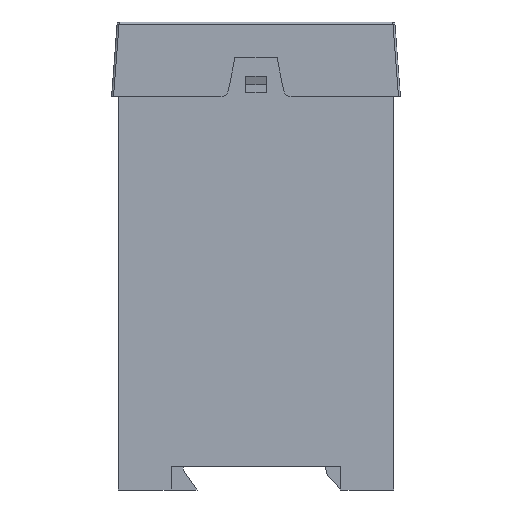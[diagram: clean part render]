
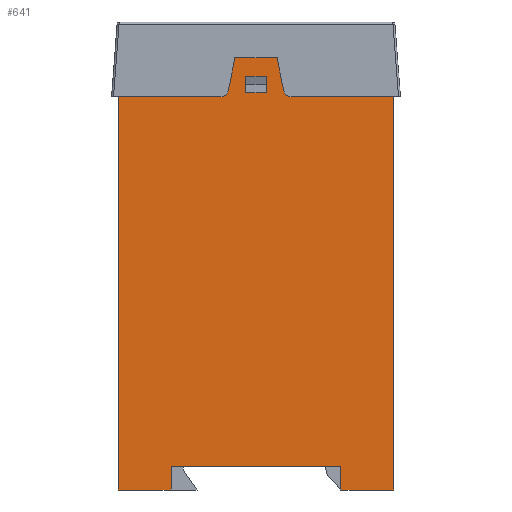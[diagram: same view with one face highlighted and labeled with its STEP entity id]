
A CAD part, left-side view. The second image highlights one B-rep face of the part: STEP entity #641.
In plain terms, the highlighted planar face has unit normal (-1, 0, 0).
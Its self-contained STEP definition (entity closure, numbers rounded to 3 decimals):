
#33 = VECTOR ( 'NONE', #10605, 1000. ) ;
#114 = EDGE_CURVE ( 'NONE', #5774, #7812, #5822, .T. ) ;
#172 = CARTESIAN_POINT ( 'NONE',  ( 2464.429, -1286.868, 281.14 ) ) ;
#244 = LINE ( 'NONE', #3508, #12455 ) ;
#255 = LINE ( 'NONE', #2291, #6216 ) ;
#266 = EDGE_CURVE ( 'NONE', #1997, #9296, #594, .T. ) ;
#535 = EDGE_CURVE ( 'NONE', #9315, #7017, #3176, .T. ) ;
#581 = VECTOR ( 'NONE', #12394, 1000. ) ;
#594 = LINE ( 'NONE', #4280, #9716 ) ;
#641 = ADVANCED_FACE ( 'NONE', ( #2799, #5562 ), #7118, .F. ) ;
#924 = ORIENTED_EDGE ( 'NONE', *, *, #1124, .T. ) ;
#1063 = VERTEX_POINT ( 'NONE', #13656 ) ;
#1124 = EDGE_CURVE ( 'NONE', #15230, #9315, #244, .T. ) ;
#1195 = CARTESIAN_POINT ( 'NONE',  ( 2464.429, -1312.879, 283.14 ) ) ;
#1277 = EDGE_CURVE ( 'NONE', #15230, #10371, #3758, .T. ) ;
#1304 = CARTESIAN_POINT ( 'NONE',  ( 2464.429, -1324.518, 286.44 ) ) ;
#1387 = AXIS2_PLACEMENT_3D ( 'NONE', #1195, #9517, #2380 ) ;
#1897 = EDGE_CURVE ( 'NONE', #7225, #7017, #255, .T. ) ;
#1902 = CARTESIAN_POINT ( 'NONE',  ( 2464.429, -1319.218, 291.14 ) ) ;
#1924 = LINE ( 'NONE', #5382, #9909 ) ;
#1997 = VERTEX_POINT ( 'NONE', #8812 ) ;
#2038 = DIRECTION ( 'NONE',  ( 0., -1., 0. ) ) ;
#2094 = ORIENTED_EDGE ( 'NONE', *, *, #7786, .F. ) ;
#2219 = CARTESIAN_POINT ( 'NONE',  ( 2464.429, -1356.868, 181.14 ) ) ;
#2291 = CARTESIAN_POINT ( 'NONE',  ( 2464.429, -1300.268, 291.14 ) ) ;
#2380 = DIRECTION ( 'NONE',  ( 0., 1., 0. ) ) ;
#2433 = VECTOR ( 'NONE', #8742, 1000. ) ;
#2630 = EDGE_CURVE ( 'NONE', #5592, #10135, #14494, .T. ) ;
#2799 = FACE_OUTER_BOUND ( 'NONE', #5515, .T. ) ;
#2904 = CARTESIAN_POINT ( 'NONE',  ( 2464.429, -1327.218, 291.14 ) ) ;
#2928 = CARTESIAN_POINT ( 'NONE',  ( 2464.429, -1330.858, 283.14 ) ) ;
#3028 = CARTESIAN_POINT ( 'NONE',  ( 2464.429, -1300.268, 187.14 ) ) ;
#3176 = LINE ( 'NONE', #14128, #33 ) ;
#3361 = CARTESIAN_POINT ( 'NONE',  ( 2464.429, -1356.868, 281.14 ) ) ;
#3508 = CARTESIAN_POINT ( 'NONE',  ( 2464.429, -1286.868, 291.14 ) ) ;
#3511 = DIRECTION ( 'NONE',  ( 0., 0., -1. ) ) ;
#3557 = CARTESIAN_POINT ( 'NONE',  ( 2464.429, -1324.518, 282.14 ) ) ;
#3758 = LINE ( 'NONE', #5286, #581 ) ;
#3831 = ORIENTED_EDGE ( 'NONE', *, *, #7190, .F. ) ;
#4032 = ORIENTED_EDGE ( 'NONE', *, *, #12897, .F. ) ;
#4092 = DIRECTION ( 'NONE',  ( 0., -0.196, -0.981 ) ) ;
#4107 = DIRECTION ( 'NONE',  ( 0., 1., 0. ) ) ;
#4264 = ORIENTED_EDGE ( 'NONE', *, *, #13059, .T. ) ;
#4280 = CARTESIAN_POINT ( 'NONE',  ( 2464.429, -1330.858, 281.14 ) ) ;
#4350 = DIRECTION ( 'NONE',  ( 0., 1., 0. ) ) ;
#4550 = CARTESIAN_POINT ( 'NONE',  ( 2464.429, -1286.868, 181.14 ) ) ;
#4569 = DIRECTION ( 'NONE',  ( 0., 0., 1. ) ) ;
#4797 = DIRECTION ( 'NONE',  ( 1., 0., 0. ) ) ;
#4984 = VERTEX_POINT ( 'NONE', #6210 ) ;
#5119 = ORIENTED_EDGE ( 'NONE', *, *, #6367, .F. ) ;
#5130 = LINE ( 'NONE', #10787, #11052 ) ;
#5151 = LINE ( 'NONE', #11654, #11425 ) ;
#5286 = CARTESIAN_POINT ( 'NONE',  ( 2464.429, -1330.858, 281.14 ) ) ;
#5293 = CARTESIAN_POINT ( 'NONE',  ( 2464.429, -1319.218, 286.44 ) ) ;
#5382 = CARTESIAN_POINT ( 'NONE',  ( 2464.429, -1286.868, 291.14 ) ) ;
#5397 = CARTESIAN_POINT ( 'NONE',  ( 2464.429, -1343.468, 187.14 ) ) ;
#5412 = VECTOR ( 'NONE', #4350, 1000. ) ;
#5515 = EDGE_LOOP ( 'NONE', ( #12595, #4032, #10667, #4264, #11077, #3831, #13854, #9468, #11826, #14181, #9083, #924, #7073, #10163 ) ) ;
#5562 = FACE_BOUND ( 'NONE', #7433, .T. ) ;
#5592 = VERTEX_POINT ( 'NONE', #1304 ) ;
#5774 = VERTEX_POINT ( 'NONE', #11001 ) ;
#5822 = LINE ( 'NONE', #14892, #11729 ) ;
#6210 = CARTESIAN_POINT ( 'NONE',  ( 2464.429, -1319.218, 282.14 ) ) ;
#6216 = VECTOR ( 'NONE', #3511, 1000. ) ;
#6367 = EDGE_CURVE ( 'NONE', #4984, #10509, #8674, .T. ) ;
#6579 = AXIS2_PLACEMENT_3D ( 'NONE', #11884, #4797, #13073 ) ;
#7017 = VERTEX_POINT ( 'NONE', #14375 ) ;
#7073 = ORIENTED_EDGE ( 'NONE', *, *, #535, .T. ) ;
#7118 = PLANE ( 'NONE',  #6579 ) ;
#7190 = EDGE_CURVE ( 'NONE', #10403, #1997, #8324, .T. ) ;
#7225 = VERTEX_POINT ( 'NONE', #3028 ) ;
#7433 = EDGE_LOOP ( 'NONE', ( #5119, #2094, #13308, #13140 ) ) ;
#7495 = EDGE_CURVE ( 'NONE', #10509, #5592, #12174, .T. ) ;
#7521 = DIRECTION ( 'NONE',  ( 0., 0., 1. ) ) ;
#7543 = CARTESIAN_POINT ( 'NONE',  ( 2464.429, -1303.368, 187.14 ) ) ;
#7703 = CIRCLE ( 'NONE', #1387, 2. ) ;
#7706 = LINE ( 'NONE', #14034, #10489 ) ;
#7778 = DIRECTION ( 'NONE',  ( 0., -1., 0. ) ) ;
#7786 = EDGE_CURVE ( 'NONE', #10135, #4984, #11202, .T. ) ;
#7812 = VERTEX_POINT ( 'NONE', #2219 ) ;
#8048 = CARTESIAN_POINT ( 'NONE',  ( 2464.429, -1328.897, 282.747 ) ) ;
#8085 = VECTOR ( 'NONE', #13990, 1000. ) ;
#8129 = DIRECTION ( 'NONE',  ( 0., -0.196, 0.981 ) ) ;
#8180 = EDGE_CURVE ( 'NONE', #11529, #1063, #1924, .T. ) ;
#8324 = CIRCLE ( 'NONE', #14662, 2. ) ;
#8674 = LINE ( 'NONE', #9152, #14936 ) ;
#8706 = EDGE_CURVE ( 'NONE', #10371, #8944, #7703, .T. ) ;
#8737 = LINE ( 'NONE', #7543, #2433 ) ;
#8742 = DIRECTION ( 'NONE',  ( 0., -1., 0. ) ) ;
#8812 = CARTESIAN_POINT ( 'NONE',  ( 2464.429, -1330.858, 281.14 ) ) ;
#8910 = VECTOR ( 'NONE', #4092, 1000. ) ;
#8944 = VERTEX_POINT ( 'NONE', #10966 ) ;
#9025 = VECTOR ( 'NONE', #7521, 1000. ) ;
#9083 = ORIENTED_EDGE ( 'NONE', *, *, #1277, .F. ) ;
#9152 = CARTESIAN_POINT ( 'NONE',  ( 2464.429, -1286.868, 282.14 ) ) ;
#9296 = VERTEX_POINT ( 'NONE', #3361 ) ;
#9315 = VERTEX_POINT ( 'NONE', #4550 ) ;
#9319 = EDGE_CURVE ( 'NONE', #8944, #11529, #7706, .T. ) ;
#9468 = ORIENTED_EDGE ( 'NONE', *, *, #8180, .F. ) ;
#9517 = DIRECTION ( 'NONE',  ( -1., 0., 0. ) ) ;
#9716 = VECTOR ( 'NONE', #12581, 1000. ) ;
#9909 = VECTOR ( 'NONE', #14839, 1000. ) ;
#10135 = VERTEX_POINT ( 'NONE', #5293 ) ;
#10163 = ORIENTED_EDGE ( 'NONE', *, *, #1897, .F. ) ;
#10371 = VERTEX_POINT ( 'NONE', #12701 ) ;
#10403 = VERTEX_POINT ( 'NONE', #8048 ) ;
#10489 = VECTOR ( 'NONE', #8129, 1000. ) ;
#10509 = VERTEX_POINT ( 'NONE', #3557 ) ;
#10605 = DIRECTION ( 'NONE',  ( 0., -1., 0. ) ) ;
#10667 = ORIENTED_EDGE ( 'NONE', *, *, #114, .T. ) ;
#10787 = CARTESIAN_POINT ( 'NONE',  ( 2464.429, -1356.868, 291.14 ) ) ;
#10966 = CARTESIAN_POINT ( 'NONE',  ( 2464.429, -1314.84, 282.747 ) ) ;
#11001 = CARTESIAN_POINT ( 'NONE',  ( 2464.429, -1343.468, 181.14 ) ) ;
#11029 = CARTESIAN_POINT ( 'NONE',  ( 2464.429, -1324.518, 291.14 ) ) ;
#11052 = VECTOR ( 'NONE', #11973, 1000. ) ;
#11077 = ORIENTED_EDGE ( 'NONE', *, *, #266, .F. ) ;
#11184 = DIRECTION ( 'NONE',  ( -1., 0., 0. ) ) ;
#11202 = LINE ( 'NONE', #1902, #8085 ) ;
#11425 = VECTOR ( 'NONE', #4569, 1000. ) ;
#11434 = CARTESIAN_POINT ( 'NONE',  ( 2464.429, -1286.868, 286.44 ) ) ;
#11529 = VERTEX_POINT ( 'NONE', #14722 ) ;
#11654 = CARTESIAN_POINT ( 'NONE',  ( 2464.429, -1343.468, 187.14 ) ) ;
#11729 = VECTOR ( 'NONE', #7778, 1000. ) ;
#11826 = ORIENTED_EDGE ( 'NONE', *, *, #9319, .F. ) ;
#11884 = CARTESIAN_POINT ( 'NONE',  ( 2464.429, -1286.868, 291.14 ) ) ;
#11904 = EDGE_CURVE ( 'NONE', #7225, #14052, #8737, .T. ) ;
#11973 = DIRECTION ( 'NONE',  ( 0., 0., 1. ) ) ;
#12174 = LINE ( 'NONE', #11029, #9025 ) ;
#12394 = DIRECTION ( 'NONE',  ( 0., -1., 0. ) ) ;
#12455 = VECTOR ( 'NONE', #12975, 1000. ) ;
#12581 = DIRECTION ( 'NONE',  ( 0., -1., 0. ) ) ;
#12595 = ORIENTED_EDGE ( 'NONE', *, *, #11904, .T. ) ;
#12701 = CARTESIAN_POINT ( 'NONE',  ( 2464.429, -1312.879, 281.14 ) ) ;
#12897 = EDGE_CURVE ( 'NONE', #5774, #14052, #5151, .T. ) ;
#12975 = DIRECTION ( 'NONE',  ( 0., 0., -1. ) ) ;
#13059 = EDGE_CURVE ( 'NONE', #7812, #9296, #5130, .T. ) ;
#13073 = DIRECTION ( 'NONE',  ( 0., 1., 0. ) ) ;
#13140 = ORIENTED_EDGE ( 'NONE', *, *, #7495, .F. ) ;
#13308 = ORIENTED_EDGE ( 'NONE', *, *, #2630, .F. ) ;
#13656 = CARTESIAN_POINT ( 'NONE',  ( 2464.429, -1327.218, 291.14 ) ) ;
#13854 = ORIENTED_EDGE ( 'NONE', *, *, #14925, .F. ) ;
#13990 = DIRECTION ( 'NONE',  ( 0., 0., -1. ) ) ;
#14034 = CARTESIAN_POINT ( 'NONE',  ( 2464.429, -1314.84, 282.747 ) ) ;
#14052 = VERTEX_POINT ( 'NONE', #5397 ) ;
#14128 = CARTESIAN_POINT ( 'NONE',  ( 2464.429, -1321.842, 181.14 ) ) ;
#14181 = ORIENTED_EDGE ( 'NONE', *, *, #8706, .F. ) ;
#14375 = CARTESIAN_POINT ( 'NONE',  ( 2464.429, -1300.268, 181.14 ) ) ;
#14494 = LINE ( 'NONE', #11434, #5412 ) ;
#14662 = AXIS2_PLACEMENT_3D ( 'NONE', #2928, #11184, #4107 ) ;
#14722 = CARTESIAN_POINT ( 'NONE',  ( 2464.429, -1316.518, 291.14 ) ) ;
#14839 = DIRECTION ( 'NONE',  ( 0., -1., 0. ) ) ;
#14892 = CARTESIAN_POINT ( 'NONE',  ( 2464.429, -1321.842, 181.14 ) ) ;
#14925 = EDGE_CURVE ( 'NONE', #1063, #10403, #15182, .T. ) ;
#14936 = VECTOR ( 'NONE', #2038, 1000. ) ;
#15182 = LINE ( 'NONE', #2904, #8910 ) ;
#15230 = VERTEX_POINT ( 'NONE', #172 ) ;
